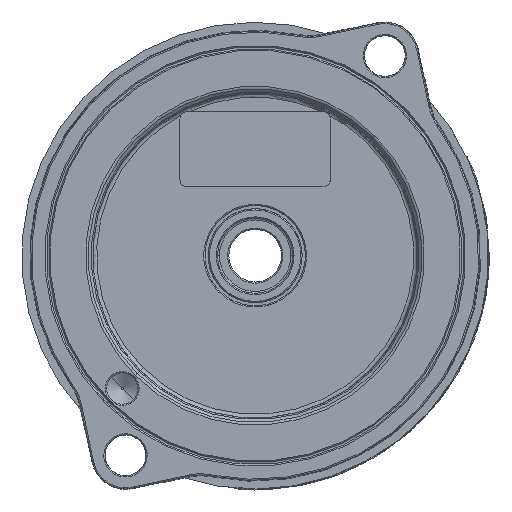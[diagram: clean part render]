
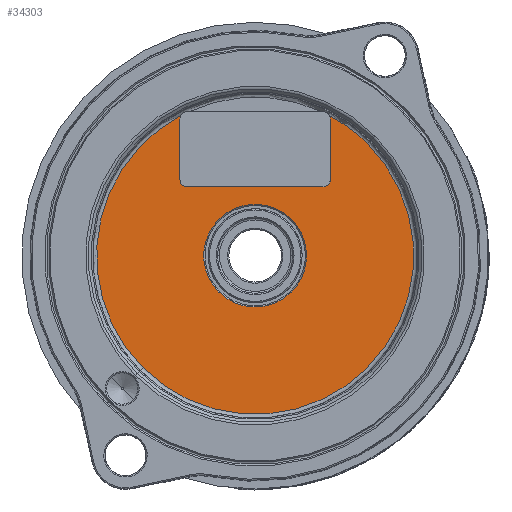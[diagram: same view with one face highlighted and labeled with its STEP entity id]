
A CAD part, front view. The second image highlights one B-rep face of the part: STEP entity #34303.
In plain terms, the highlighted planar face has unit normal (0, -1, 0).
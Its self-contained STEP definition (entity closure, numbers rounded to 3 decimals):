
#180=DIRECTION('',(0.,0.,1.));
#181=VECTOR('',#180,4.8);
#182=CARTESIAN_POINT('',(-6.,-3.25,6.1));
#183=LINE('',#182,#181);
#184=CARTESIAN_POINT('',(-6.,-3.25,6.1));
#185=CARTESIAN_POINT('',(-6.,-3.25,6.075));
#186=CARTESIAN_POINT('',(-5.997,-3.25,6.028));
#187=CARTESIAN_POINT('',(-5.982,-3.25,5.943));
#188=CARTESIAN_POINT('',(-5.95,-3.25,5.85));
#189=CARTESIAN_POINT('',(-5.895,-3.25,5.755));
#190=CARTESIAN_POINT('',(-5.826,-3.25,5.674));
#191=CARTESIAN_POINT('',(-5.745,-3.25,5.605));
#192=CARTESIAN_POINT('',(-5.65,-3.25,5.55));
#193=CARTESIAN_POINT('',(-5.557,-3.25,5.518));
#194=CARTESIAN_POINT('',(-5.472,-3.25,5.503));
#195=CARTESIAN_POINT('',(-5.425,-3.25,5.5));
#196=CARTESIAN_POINT('',(-5.4,-3.25,5.5));
#198=DIRECTION('',(-1.,0.,0.));
#199=VECTOR('',#198,10.8);
#200=CARTESIAN_POINT('',(5.4,-3.25,5.5));
#201=LINE('',#200,#199);
#202=CARTESIAN_POINT('',(5.4,-3.25,5.5));
#203=CARTESIAN_POINT('',(5.425,-3.25,5.5));
#204=CARTESIAN_POINT('',(5.472,-3.25,5.503));
#205=CARTESIAN_POINT('',(5.557,-3.25,5.518));
#206=CARTESIAN_POINT('',(5.65,-3.25,5.55));
#207=CARTESIAN_POINT('',(5.745,-3.25,5.605));
#208=CARTESIAN_POINT('',(5.826,-3.25,5.674));
#209=CARTESIAN_POINT('',(5.895,-3.25,5.755));
#210=CARTESIAN_POINT('',(5.95,-3.25,5.85));
#211=CARTESIAN_POINT('',(5.982,-3.25,5.943));
#212=CARTESIAN_POINT('',(5.997,-3.25,6.028));
#213=CARTESIAN_POINT('',(6.,-3.25,6.075));
#214=CARTESIAN_POINT('',(6.,-3.25,6.1));
#216=DIRECTION('',(0.,0.,-1.));
#217=VECTOR('',#216,4.8);
#218=CARTESIAN_POINT('',(6.,-3.25,10.9));
#219=LINE('',#218,#217);
#220=CARTESIAN_POINT('',(6.,-3.25,10.9));
#221=CARTESIAN_POINT('',(6.,-3.25,10.95));
#222=CARTESIAN_POINT('',(5.988,-3.25,11.046));
#223=CARTESIAN_POINT('',(5.953,-3.25,11.137));
#224=CARTESIAN_POINT('',(5.93,-3.25,11.181));
#226=CARTESIAN_POINT('',(0.,-3.25,
0.));
#227=DIRECTION('',(0.,-1.,0.));
#228=DIRECTION('',(0.707,0.,0.707));
#229=AXIS2_PLACEMENT_3D('',#226,#227,#228);
#231=CARTESIAN_POINT('',(0.,-3.25,
0.));
#232=DIRECTION('',(0.,-1.,0.));
#233=DIRECTION('',(-0.707,0.,-0.707));
#234=AXIS2_PLACEMENT_3D('',#231,#232,#233);
#236=CARTESIAN_POINT('',(0.,-3.25,
0.));
#237=DIRECTION('',(0.,-1.,0.));
#238=DIRECTION('',(-0.469,0.,0.883));
#239=AXIS2_PLACEMENT_3D('',#236,#237,#238);
#241=CARTESIAN_POINT('',(-5.93,-3.25,11.181));
#242=CARTESIAN_POINT('',(-5.953,-3.25,11.137));
#243=CARTESIAN_POINT('',(-5.988,-3.25,11.046));
#244=CARTESIAN_POINT('',(-6.,-3.25,10.95));
#245=CARTESIAN_POINT('',(-6.,-3.25,10.9));
#247=CARTESIAN_POINT('',(0.,-3.25,
0.));
#248=DIRECTION('',(0.,1.,0.));
#249=DIRECTION('',(-0.707,0.,-0.707));
#250=AXIS2_PLACEMENT_3D('',#247,#248,#249);
#252=CARTESIAN_POINT('',(0.,-3.25,
0.));
#253=DIRECTION('',(0.,1.,0.));
#254=DIRECTION('',(0.707,0.,0.707));
#255=AXIS2_PLACEMENT_3D('',#252,#253,#254);
#31401=CARTESIAN_POINT('',(-2.899,-3.25,
-2.899));
#31402=CARTESIAN_POINT('',(2.899,-3.25,
2.899));
#31403=VERTEX_POINT('',#31401);
#31404=VERTEX_POINT('',#31402);
#31605=CARTESIAN_POINT('',(-8.95,-3.25,
-8.949));
#31606=CARTESIAN_POINT('',(8.95,-3.25,
8.949));
#31607=VERTEX_POINT('',#31605);
#31608=VERTEX_POINT('',#31606);
#33506=CARTESIAN_POINT('',(-6.,-3.25,
6.1));
#33507=CARTESIAN_POINT('',(-6.,-3.25,
10.9));
#33508=VERTEX_POINT('',#33506);
#33509=VERTEX_POINT('',#33507);
#33514=CARTESIAN_POINT('',(6.,-3.25,
10.9));
#33515=CARTESIAN_POINT('',(6.,-3.25,
6.1));
#33516=VERTEX_POINT('',#33514);
#33517=VERTEX_POINT('',#33515);
#33518=CARTESIAN_POINT('',(5.4,-3.25,
5.5));
#33519=CARTESIAN_POINT('',(-5.4,-3.25,
5.5));
#33520=VERTEX_POINT('',#33518);
#33521=VERTEX_POINT('',#33519);
#33522=VERTEX_POINT('',#241);
#33523=VERTEX_POINT('',#224);
#34271=CARTESIAN_POINT('',(0.,-3.25,
0.));
#34272=DIRECTION('',(0.,-1.,0.));
#34273=DIRECTION('',(-0.707,0.,-0.707));
#34274=AXIS2_PLACEMENT_3D('',#34271,#34272,#34273);
#34275=PLANE('',#34274);
#34277=ORIENTED_EDGE('',*,*,#34276,.F.);
#34279=ORIENTED_EDGE('',*,*,#34278,.T.);
#34281=ORIENTED_EDGE('',*,*,#34280,.F.);
#34283=ORIENTED_EDGE('',*,*,#34282,.T.);
#34285=ORIENTED_EDGE('',*,*,#34284,.F.);
#34287=ORIENTED_EDGE('',*,*,#34286,.T.);
#34289=ORIENTED_EDGE('',*,*,#34288,.F.);
#34291=ORIENTED_EDGE('',*,*,#34290,.F.);
#34293=ORIENTED_EDGE('',*,*,#34292,.F.);
#34295=ORIENTED_EDGE('',*,*,#34294,.T.);
#34296=EDGE_LOOP('',(#34277,#34279,#34281,#34283,#34285,#34287,#34289,#34291,
#34293,#34295));
#34297=FACE_OUTER_BOUND('',#34296,.F.);
#34299=ORIENTED_EDGE('',*,*,#34298,.F.);
#34300=ORIENTED_EDGE('',*,*,#34254,.F.);
#34301=EDGE_LOOP('',(#34299,#34300));
#34302=FACE_BOUND('',#34301,.F.);
#197=B_SPLINE_CURVE_WITH_KNOTS('',3,(#184,#185,#186,#187,#188,#189,#190,#191,
#192,#193,#194,#195,#196),.UNSPECIFIED.,.F.,.F.,(4,1,1,1,1,1,1,1,1,1,4),(0.,
0.063,0.125,0.25,0.375,0.5,0.625,0.75,0.875,0.938,1.),
.UNSPECIFIED.);
#215=B_SPLINE_CURVE_WITH_KNOTS('',3,(#202,#203,#204,#205,#206,#207,#208,#209,
#210,#211,#212,#213,#214),.UNSPECIFIED.,.F.,.F.,(4,1,1,1,1,1,1,1,1,1,4),(0.,
0.063,0.125,0.25,0.375,0.5,0.625,0.75,0.875,0.938,1.),
.UNSPECIFIED.);
#225=B_SPLINE_CURVE_WITH_KNOTS('',3,(#220,#221,#222,#223,#224),.UNSPECIFIED.,
.F.,.F.,(4,1,4),(0.,0.5,1.),.UNSPECIFIED.);
#230=CIRCLE('',#229,12.656);
#235=CIRCLE('',#234,12.656);
#240=CIRCLE('',#239,12.656);
#246=B_SPLINE_CURVE_WITH_KNOTS('',3,(#241,#242,#243,#244,#245),.UNSPECIFIED.,
.F.,.F.,(4,1,4),(0.,0.5,1.),.UNSPECIFIED.);
#251=CIRCLE('',#250,4.1);
#256=CIRCLE('',#255,4.1);
#34254=EDGE_CURVE('',#31404,#31403,#256,.T.);
#34276=EDGE_CURVE('',#33508,#33509,#183,.T.);
#34278=EDGE_CURVE('',#33508,#33521,#197,.T.);
#34280=EDGE_CURVE('',#33520,#33521,#201,.T.);
#34282=EDGE_CURVE('',#33520,#33517,#215,.T.);
#34284=EDGE_CURVE('',#33516,#33517,#219,.T.);
#34286=EDGE_CURVE('',#33516,#33523,#225,.T.);
#34288=EDGE_CURVE('',#31608,#33523,#230,.T.);
#34290=EDGE_CURVE('',#31607,#31608,#235,.T.);
#34292=EDGE_CURVE('',#33522,#31607,#240,.T.);
#34294=EDGE_CURVE('',#33522,#33509,#246,.T.);
#34298=EDGE_CURVE('',#31403,#31404,#251,.T.);
#34303=ADVANCED_FACE('',(#34297,#34302),#34275,.T.);
